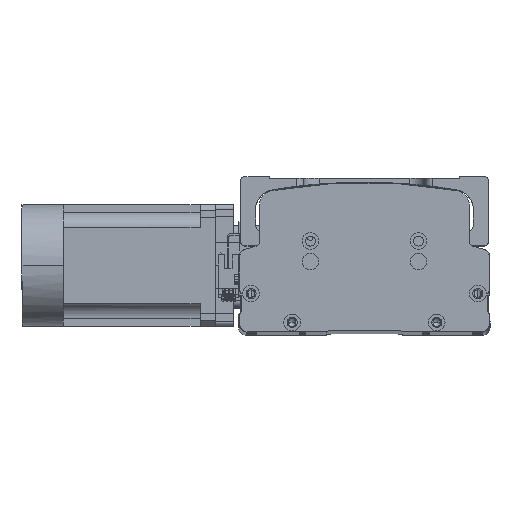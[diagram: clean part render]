
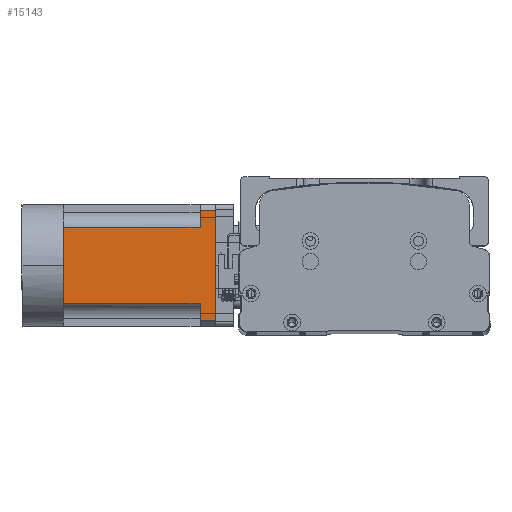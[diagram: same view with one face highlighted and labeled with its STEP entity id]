
A CAD part, top view. The second image highlights one B-rep face of the part: STEP entity #15143.
In plain terms, the highlighted planar face has unit normal (0, -0.003, 1) as drawn and (0, 0, -1) by its records, which use the part's own axes.
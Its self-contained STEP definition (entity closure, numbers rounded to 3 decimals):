
#1173 = VERTEX_POINT ( 'NONE', #27536 ) ;
#1289 = LINE ( 'NONE', #24612, #30015 ) ;
#2729 = CARTESIAN_POINT ( 'NONE',  ( 36., -27., -40. ) ) ;
#2942 = DIRECTION ( 'NONE',  ( -1., 0., 0. ) ) ;
#3081 = VERTEX_POINT ( 'NONE', #13550 ) ;
#3132 = LINE ( 'NONE', #25805, #22696 ) ;
#3312 = ORIENTED_EDGE ( 'NONE', *, *, #35586, .T. ) ;
#3879 = AXIS2_PLACEMENT_3D ( 'NONE', #47851, #20750, #48036 ) ;
#4619 = VECTOR ( 'NONE', #42400, 1000. ) ;
#5936 = LINE ( 'NONE', #49711, #35855 ) ;
#7063 = ORIENTED_EDGE ( 'NONE', *, *, #14699, .F. ) ;
#7248 = CARTESIAN_POINT ( 'NONE',  ( -36., -27., -40. ) ) ;
#7567 = ORIENTED_EDGE ( 'NONE', *, *, #45189, .T. ) ;
#9647 = CARTESIAN_POINT ( 'NONE',  ( -40., 90., -40. ) ) ;
#9711 = ORIENTED_EDGE ( 'NONE', *, *, #45912, .T. ) ;
#11552 = CARTESIAN_POINT ( 'NONE',  ( 36., 90., -40. ) ) ;
#11896 = CARTESIAN_POINT ( 'NONE',  ( 25., 90., -40. ) ) ;
#13550 = CARTESIAN_POINT ( 'NONE',  ( 0., 0., -40. ) ) ;
#14567 = CARTESIAN_POINT ( 'NONE',  ( 25., 0., -40. ) ) ;
#14699 = EDGE_CURVE ( 'NONE', #47516, #48899, #38720, .T. ) ;
#14706 = DIRECTION ( 'NONE',  ( 0., -1., 0. ) ) ;
#15053 = LINE ( 'NONE', #7248, #4619 ) ;
#15143 = ADVANCED_FACE ( 'NONE', ( #47510 ), #44071, .T. ) ;
#15979 = EDGE_CURVE ( 'NONE', #1173, #48899, #15053, .T. ) ;
#16644 = VECTOR ( 'NONE', #19263, 1000. ) ;
#17643 = VERTEX_POINT ( 'NONE', #26715 ) ;
#18419 = VECTOR ( 'NONE', #39248, 1000. ) ;
#19263 = DIRECTION ( 'NONE',  ( -1., 0., 0. ) ) ;
#19635 = LINE ( 'NONE', #31427, #18419 ) ;
#20082 = VERTEX_POINT ( 'NONE', #20700 ) ;
#20700 = CARTESIAN_POINT ( 'NONE',  ( -25., 90., -40. ) ) ;
#20750 = DIRECTION ( 'NONE',  ( 0., 0., -1. ) ) ;
#20888 = CARTESIAN_POINT ( 'NONE',  ( -36., 100., -40. ) ) ;
#21404 = EDGE_CURVE ( 'NONE', #17643, #20082, #19635, .T. ) ;
#21632 = CARTESIAN_POINT ( 'NONE',  ( -40., 100., -40. ) ) ;
#22696 = VECTOR ( 'NONE', #29759, 1000. ) ;
#24612 = CARTESIAN_POINT ( 'NONE',  ( 25., -27., -40. ) ) ;
#25748 = EDGE_CURVE ( 'NONE', #35164, #25998, #1289, .T. ) ;
#25805 = CARTESIAN_POINT ( 'NONE',  ( -40., 0., -40. ) ) ;
#25998 = VERTEX_POINT ( 'NONE', #14567 ) ;
#26715 = CARTESIAN_POINT ( 'NONE',  ( -25., 0., -40. ) ) ;
#26818 = ORIENTED_EDGE ( 'NONE', *, *, #41239, .T. ) ;
#27227 = ORIENTED_EDGE ( 'NONE', *, *, #21404, .T. ) ;
#27536 = CARTESIAN_POINT ( 'NONE',  ( -36., 90., -40. ) ) ;
#28422 = ORIENTED_EDGE ( 'NONE', *, *, #25748, .T. ) ;
#29079 = DIRECTION ( 'NONE',  ( -1., 0., 0. ) ) ;
#29759 = DIRECTION ( 'NONE',  ( -1., 0., 0. ) ) ;
#30015 = VECTOR ( 'NONE', #47832, 1000. ) ;
#30212 = VECTOR ( 'NONE', #14706, 1000. ) ;
#31427 = CARTESIAN_POINT ( 'NONE',  ( -25., -27., -40. ) ) ;
#31616 = ORIENTED_EDGE ( 'NONE', *, *, #15979, .T. ) ;
#35127 = ORIENTED_EDGE ( 'NONE', *, *, #38761, .T. ) ;
#35164 = VERTEX_POINT ( 'NONE', #11896 ) ;
#35586 = EDGE_CURVE ( 'NONE', #3081, #17643, #5936, .T. ) ;
#35855 = VECTOR ( 'NONE', #2942, 1000. ) ;
#37367 = LINE ( 'NONE', #46526, #16644 ) ;
#37452 = VERTEX_POINT ( 'NONE', #11552 ) ;
#37577 = CARTESIAN_POINT ( 'NONE',  ( 36., 100., -40. ) ) ;
#38720 = LINE ( 'NONE', #21632, #39947 ) ;
#38761 = EDGE_CURVE ( 'NONE', #20082, #1173, #39784, .T. ) ;
#39248 = DIRECTION ( 'NONE',  ( 0., 1., 0. ) ) ;
#39784 = LINE ( 'NONE', #9647, #47732 ) ;
#39947 = VECTOR ( 'NONE', #48936, 1000. ) ;
#40574 = LINE ( 'NONE', #2729, #30212 ) ;
#41239 = EDGE_CURVE ( 'NONE', #25998, #3081, #3132, .T. ) ;
#42400 = DIRECTION ( 'NONE',  ( 0., 1., 0. ) ) ;
#44071 = PLANE ( 'NONE',  #3879 ) ;
#45047 = EDGE_LOOP ( 'NONE', ( #7063, #7567, #9711, #28422, #26818, #3312, #27227, #35127, #31616 ) ) ;
#45189 = EDGE_CURVE ( 'NONE', #47516, #37452, #40574, .T. ) ;
#45912 = EDGE_CURVE ( 'NONE', #37452, #35164, #37367, .T. ) ;
#46526 = CARTESIAN_POINT ( 'NONE',  ( -40., 90., -40. ) ) ;
#47510 = FACE_OUTER_BOUND ( 'NONE', #45047, .T. ) ;
#47516 = VERTEX_POINT ( 'NONE', #37577 ) ;
#47732 = VECTOR ( 'NONE', #29079, 1000. ) ;
#47832 = DIRECTION ( 'NONE',  ( 0., -1., 0. ) ) ;
#47851 = CARTESIAN_POINT ( 'NONE',  ( -40., -27., -40. ) ) ;
#48036 = DIRECTION ( 'NONE',  ( -1., 0., 0. ) ) ;
#48899 = VERTEX_POINT ( 'NONE', #20888 ) ;
#48936 = DIRECTION ( 'NONE',  ( -1., 0., 0. ) ) ;
#49711 = CARTESIAN_POINT ( 'NONE',  ( -40., 0., -40. ) ) ;
